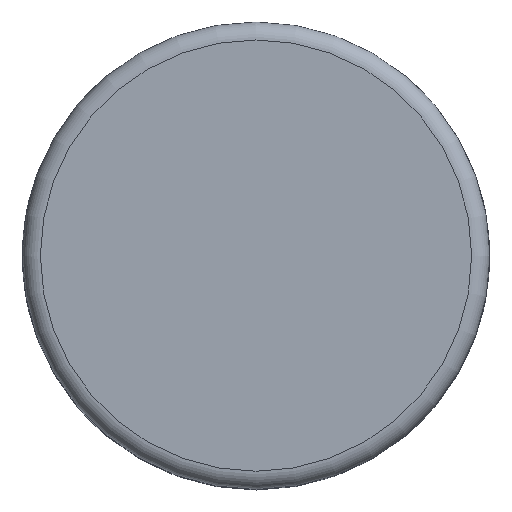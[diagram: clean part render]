
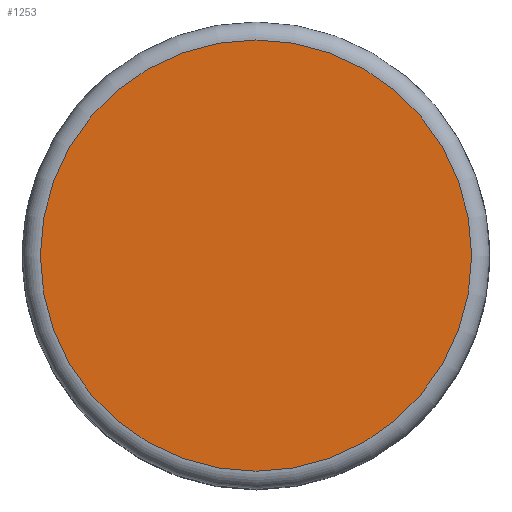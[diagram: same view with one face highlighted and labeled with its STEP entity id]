
A CAD part, top view. The second image highlights one B-rep face of the part: STEP entity #1253.
In plain terms, the highlighted planar face has unit normal (0, 0, 1).
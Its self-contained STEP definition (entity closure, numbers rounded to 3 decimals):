
#73=PLANE('',#1402);
#396=FACE_OUTER_BOUND('',#465,.T.);
#465=EDGE_LOOP('',(#1063));
#516=CIRCLE('',#1385,12.);
#597=VERTEX_POINT('',#2086);
#749=EDGE_CURVE('',#597,#597,#516,.T.);
#1063=ORIENTED_EDGE('',*,*,#749,.F.);
#1253=ADVANCED_FACE('',(#396),#73,.T.);
#1385=AXIS2_PLACEMENT_3D('',#2087,#1632,#1633);
#1402=AXIS2_PLACEMENT_3D('',#2231,#1679,#1680);
#1632=DIRECTION('center_axis',(0.,0.,-1.));
#1633=DIRECTION('ref_axis',(1.,0.,0.));
#1679=DIRECTION('center_axis',(0.,0.,1.));
#1680=DIRECTION('ref_axis',(1.,0.,0.));
#2086=CARTESIAN_POINT('',(-12.,0.,28.));
#2087=CARTESIAN_POINT('Origin',(0.,0.,28.));
#2231=CARTESIAN_POINT('Origin',(0.,0.,28.));
